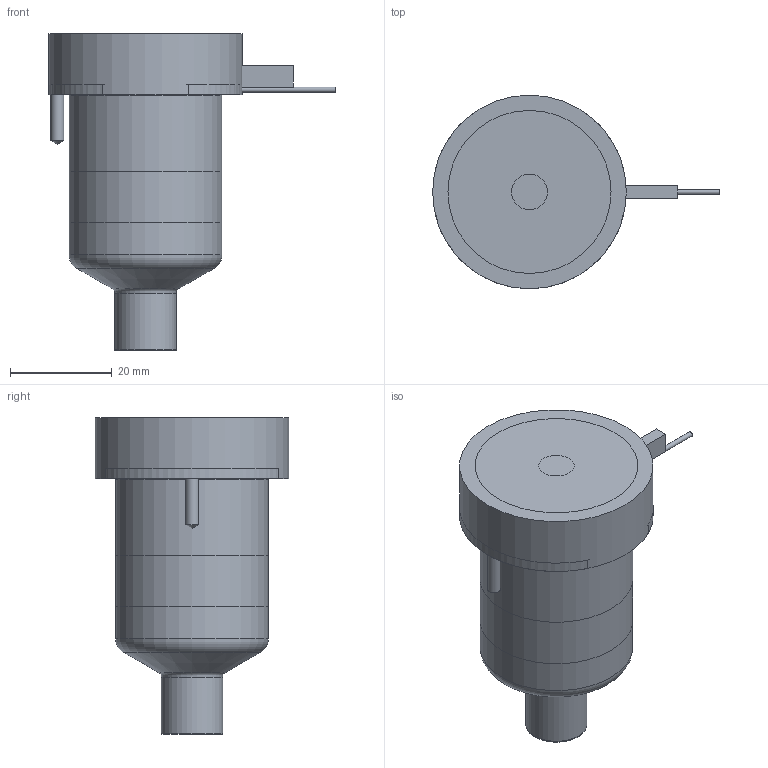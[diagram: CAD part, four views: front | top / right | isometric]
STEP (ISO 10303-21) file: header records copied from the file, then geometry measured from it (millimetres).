
FILE_DESCRIPTION(/* description */ (''),/* implementation_level */ '2;1');
FILE_NAME(/* name */ 'BXTVSN-BXIVSN-BXOVSN16045_250C_b',/* time_stamp */ '2007-01-18T10:03:21+13:00',/* author */ (''),/* organization */ (''),/* preprocessor_version */ 'ST-DEVELOPER v9',/* originating_system */ 'UGS - NX 4.0',/* authorisation */ '');
FILE_SCHEMA (('CONFIG_CONTROL_DESIGN'));
Length unit declared in the file: millimetre
Products named in the file (1): BXTVSN-BXIVSN-BXOVSN16045_250C_b
Bounding box: 56.25 x 38 x 62.17 mm (x, y, z)
Volume: 78694 mm3; surface area: 17617.5 mm2
Topology: 6 solids, 6 shells, 76 faces, 151 edges, 97 vertices
Faces by surface type: plane 35, cylinder 23, cone 10, torus 7, bspline 1
Full cylindrical faces by diameter (mm): 1 x3, 2.5 x3, 7 x1, 11.61 x1, 12.01 x2, 14.8 x1, 25.4 x1, 30 x2, 38 x1
Entity records: 1892 total; most frequent: CARTESIAN_POINT 374, DIRECTION 318, ORIENTED_EDGE 224, AXIS2_PLACEMENT_3D 140, EDGE_LOOP 116, EDGE_CURVE 112, VERTEX_POINT 89, ADVANCED_FACE 76
